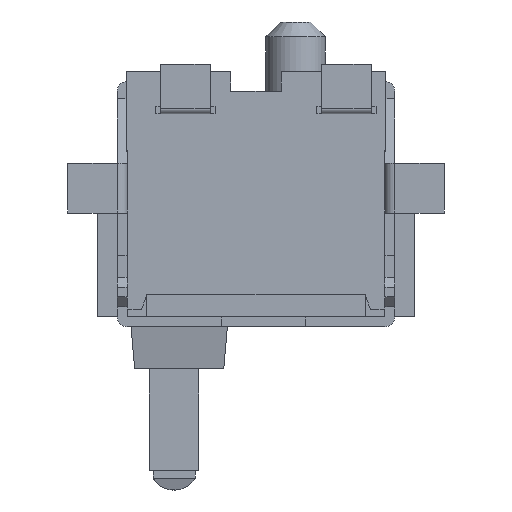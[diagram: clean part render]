
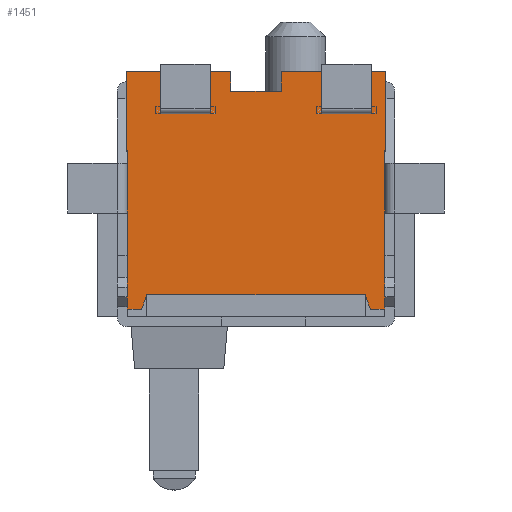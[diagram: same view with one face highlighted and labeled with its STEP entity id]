
A CAD part, front view. The second image highlights one B-rep face of the part: STEP entity #1451.
In plain terms, the highlighted planar face has unit normal (0, -1, 0).
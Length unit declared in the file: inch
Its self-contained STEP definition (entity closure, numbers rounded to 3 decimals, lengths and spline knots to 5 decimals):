
#2=DIRECTION('',(-1.,0.,0.));
#3=VECTOR('',#2,0.01181);
#4=CARTESIAN_POINT('',(-0.09094,0.,-0.09449));
#5=LINE('',#4,#3);
#6=DIRECTION('',(0.,0.,1.));
#7=VECTOR('',#6,0.18898);
#8=CARTESIAN_POINT('',(-0.10276,0.,-0.09449));
#9=LINE('',#8,#7);
#10=DIRECTION('',(1.,0.,0.));
#11=VECTOR('',#10,0.08268);
#12=CARTESIAN_POINT('',(-0.10276,0.,0.09449));
#13=LINE('',#12,#11);
#14=DIRECTION('',(0.,0.,-1.));
#15=VECTOR('',#14,0.01575);
#16=CARTESIAN_POINT('',(-0.02008,0.,0.09449));
#17=LINE('',#16,#15);
#18=DIRECTION('',(1.,0.,0.));
#19=VECTOR('',#18,0.04016);
#20=CARTESIAN_POINT('',(-0.02008,0.,0.07874));
#21=LINE('',#20,#19);
#22=DIRECTION('',(0.,0.,1.));
#23=VECTOR('',#22,0.01575);
#24=CARTESIAN_POINT('',(0.02008,0.,0.07874));
#25=LINE('',#24,#23);
#26=DIRECTION('',(1.,0.,0.));
#27=VECTOR('',#26,0.08268);
#28=CARTESIAN_POINT('',(0.02008,0.,0.09449));
#29=LINE('',#28,#27);
#30=DIRECTION('',(0.,0.,-1.));
#31=VECTOR('',#30,0.18898);
#32=CARTESIAN_POINT('',(0.10276,0.,0.09449));
#33=LINE('',#32,#31);
#34=DIRECTION('',(-1.,0.,0.));
#35=VECTOR('',#34,0.01181);
#36=CARTESIAN_POINT('',(0.10276,0.,-0.09449));
#37=LINE('',#36,#35);
#38=DIRECTION('',(-0.344,0.,0.939));
#39=VECTOR('',#38,0.01258);
#40=CARTESIAN_POINT('',(0.09094,0.,-0.09449));
#41=LINE('',#40,#39);
#42=DIRECTION('',(-1.,0.,0.));
#43=VECTOR('',#42,0.17323);
#44=CARTESIAN_POINT('',(0.08661,0.,-0.08268));
#45=LINE('',#44,#43);
#46=DIRECTION('',(-0.344,0.,-0.939));
#47=VECTOR('',#46,0.01258);
#48=CARTESIAN_POINT('',(-0.08661,0.,-0.08268));
#49=LINE('',#48,#47);
#1072=CARTESIAN_POINT('',(-0.09094,0.,-0.09449));
#1073=CARTESIAN_POINT('',(-0.10276,0.,-0.09449));
#1074=VERTEX_POINT('',#1072);
#1075=VERTEX_POINT('',#1073);
#1076=CARTESIAN_POINT('',(-0.10276,0.,0.09449));
#1077=VERTEX_POINT('',#1076);
#1078=CARTESIAN_POINT('',(-0.02008,0.,0.09449));
#1079=VERTEX_POINT('',#1078);
#1080=CARTESIAN_POINT('',(-0.02008,0.,0.07874));
#1081=VERTEX_POINT('',#1080);
#1082=CARTESIAN_POINT('',(0.02008,0.,0.07874));
#1083=VERTEX_POINT('',#1082);
#1084=CARTESIAN_POINT('',(0.02008,0.,0.09449));
#1085=VERTEX_POINT('',#1084);
#1086=CARTESIAN_POINT('',(0.10276,0.,0.09449));
#1087=VERTEX_POINT('',#1086);
#1088=CARTESIAN_POINT('',(0.10276,0.,-0.09449));
#1089=VERTEX_POINT('',#1088);
#1090=CARTESIAN_POINT('',(0.09094,0.,-0.09449));
#1091=VERTEX_POINT('',#1090);
#1092=CARTESIAN_POINT('',(0.08661,0.,-0.08268));
#1093=VERTEX_POINT('',#1092);
#1094=CARTESIAN_POINT('',(-0.08661,0.,-0.08268));
#1095=VERTEX_POINT('',#1094);
#1420=CARTESIAN_POINT('',(0.,0.,0.));
#1421=DIRECTION('',(0.,1.,0.));
#1422=DIRECTION('',(1.,0.,0.));
#1423=AXIS2_PLACEMENT_3D('',#1420,#1421,#1422);
#1424=PLANE('',#1423);
#1426=ORIENTED_EDGE('',*,*,#1425,.T.);
#1428=ORIENTED_EDGE('',*,*,#1427,.T.);
#1430=ORIENTED_EDGE('',*,*,#1429,.T.);
#1432=ORIENTED_EDGE('',*,*,#1431,.T.);
#1434=ORIENTED_EDGE('',*,*,#1433,.T.);
#1436=ORIENTED_EDGE('',*,*,#1435,.T.);
#1438=ORIENTED_EDGE('',*,*,#1437,.T.);
#1440=ORIENTED_EDGE('',*,*,#1439,.T.);
#1442=ORIENTED_EDGE('',*,*,#1441,.T.);
#1444=ORIENTED_EDGE('',*,*,#1443,.T.);
#1446=ORIENTED_EDGE('',*,*,#1445,.T.);
#1448=ORIENTED_EDGE('',*,*,#1447,.T.);
#1449=EDGE_LOOP('',(#1426,#1428,#1430,#1432,#1434,#1436,#1438,#1440,#1442,#1444,
#1446,#1448));
#1450=FACE_OUTER_BOUND('',#1449,.F.);
#1425=EDGE_CURVE('',#1074,#1075,#5,.T.);
#1427=EDGE_CURVE('',#1075,#1077,#9,.T.);
#1429=EDGE_CURVE('',#1077,#1079,#13,.T.);
#1431=EDGE_CURVE('',#1079,#1081,#17,.T.);
#1433=EDGE_CURVE('',#1081,#1083,#21,.T.);
#1435=EDGE_CURVE('',#1083,#1085,#25,.T.);
#1437=EDGE_CURVE('',#1085,#1087,#29,.T.);
#1439=EDGE_CURVE('',#1087,#1089,#33,.T.);
#1441=EDGE_CURVE('',#1089,#1091,#37,.T.);
#1443=EDGE_CURVE('',#1091,#1093,#41,.T.);
#1445=EDGE_CURVE('',#1093,#1095,#45,.T.);
#1447=EDGE_CURVE('',#1095,#1074,#49,.T.);
#1451=ADVANCED_FACE('',(#1450),#1424,.F.);
